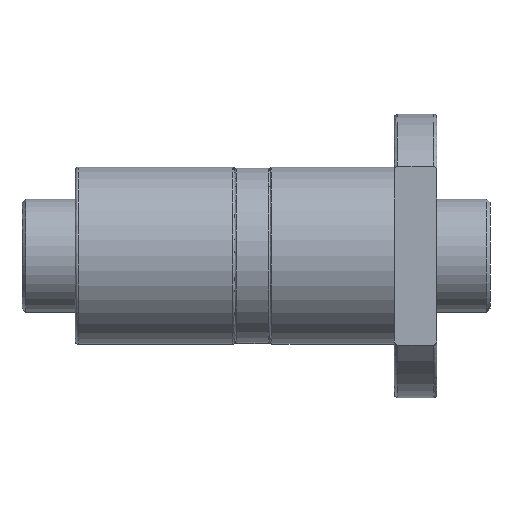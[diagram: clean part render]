
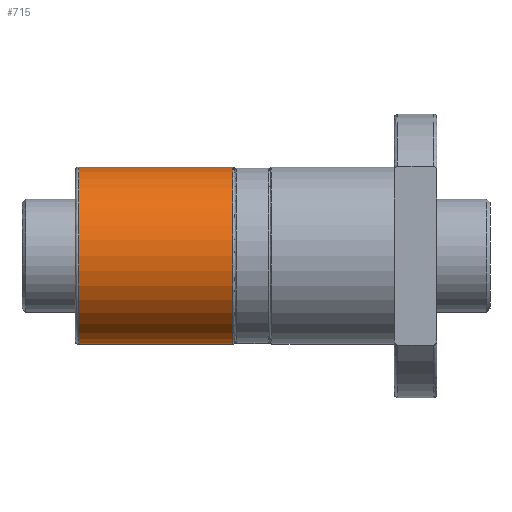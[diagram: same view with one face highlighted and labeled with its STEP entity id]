
A CAD part, front view. The second image highlights one B-rep face of the part: STEP entity #715.
In plain terms, the highlighted cylindrical face has radius 25 mm (diameter 50 mm), a partial arc.
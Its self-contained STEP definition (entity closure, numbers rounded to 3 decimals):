
#699 = EDGE_CURVE ( 'NONE', #780, #705, #2354, .T. ) ;
#705 = VERTEX_POINT ( 'NONE', #2361 ) ;
#706 = EDGE_CURVE ( 'NONE', #705, #748, #2283, .T. ) ;
#715 = ADVANCED_FACE ( 'NONE', ( #2452 ), #2450, .T. ) ;
#716 = ORIENTED_EDGE ( 'NONE', *, *, #872, .F. ) ;
#717 = ORIENTED_EDGE ( 'NONE', *, *, #699, .T. ) ;
#718 = ORIENTED_EDGE ( 'NONE', *, *, #747, .T. ) ;
#721 = EDGE_LOOP ( 'NONE', ( #716, #718, #717, #722 ) ) ;
#722 = ORIENTED_EDGE ( 'NONE', *, *, #706, .T. ) ;
#747 = EDGE_CURVE ( 'NONE', #793, #780, #2554, .T. ) ;
#748 = VERTEX_POINT ( 'NONE', #2546 ) ;
#780 = VERTEX_POINT ( 'NONE', #2633 ) ;
#793 = VERTEX_POINT ( 'NONE', #2658 ) ;
#872 = EDGE_CURVE ( 'NONE', #793, #748, #1535, .T. ) ;
#1531 = DIRECTION ( 'NONE',  ( 1., 0., 0. ) ) ;
#1532 = VECTOR ( 'NONE', #1531, 1000. ) ;
#1534 = CARTESIAN_POINT ( 'NONE',  ( -132., 0., 25. ) ) ;
#1535 = LINE ( 'NONE', #1534, #1532 ) ;
#2273 = DIRECTION ( 'NONE',  ( 0., 0., -1. ) ) ;
#2274 = DIRECTION ( 'NONE',  ( 0., 0., -1. ) ) ;
#2275 = DIRECTION ( 'NONE',  ( -1., 0., 0. ) ) ;
#2276 = CARTESIAN_POINT ( 'NONE',  ( -72.5, 0., 0. ) ) ;
#2277 = DIRECTION ( 'NONE',  ( 1., 0., 0. ) ) ;
#2278 = CARTESIAN_POINT ( 'NONE',  ( -132., 0., 0. ) ) ;
#2282 = AXIS2_PLACEMENT_3D ( 'NONE', #2276, #2275, #2274 ) ;
#2283 = CIRCLE ( 'NONE', #2282, 25. ) ;
#2344 = DIRECTION ( 'NONE',  ( 1., 0., 0. ) ) ;
#2353 = VECTOR ( 'NONE', #2344, 1000. ) ;
#2354 = LINE ( 'NONE', #2359, #2353 ) ;
#2359 = CARTESIAN_POINT ( 'NONE',  ( -132., 0., -25. ) ) ;
#2361 = CARTESIAN_POINT ( 'NONE',  ( -72.5, 0., -25. ) ) ;
#2450 = CYLINDRICAL_SURFACE ( 'NONE', #2454, 25. ) ;
#2452 = FACE_OUTER_BOUND ( 'NONE', #721, .T. ) ;
#2454 = AXIS2_PLACEMENT_3D ( 'NONE', #2278, #2277, #2273 ) ;
#2546 = CARTESIAN_POINT ( 'NONE',  ( -72.5, 0., 25. ) ) ;
#2547 = AXIS2_PLACEMENT_3D ( 'NONE', #2561, #2549, #2559 ) ;
#2549 = DIRECTION ( 'NONE',  ( 1., 0., 0. ) ) ;
#2554 = CIRCLE ( 'NONE', #2547, 25. ) ;
#2559 = DIRECTION ( 'NONE',  ( 0., 0., -1. ) ) ;
#2561 = CARTESIAN_POINT ( 'NONE',  ( -116., 0., 0. ) ) ;
#2633 = CARTESIAN_POINT ( 'NONE',  ( -116., 0., -25. ) ) ;
#2658 = CARTESIAN_POINT ( 'NONE',  ( -116., 0., 25. ) ) ;
